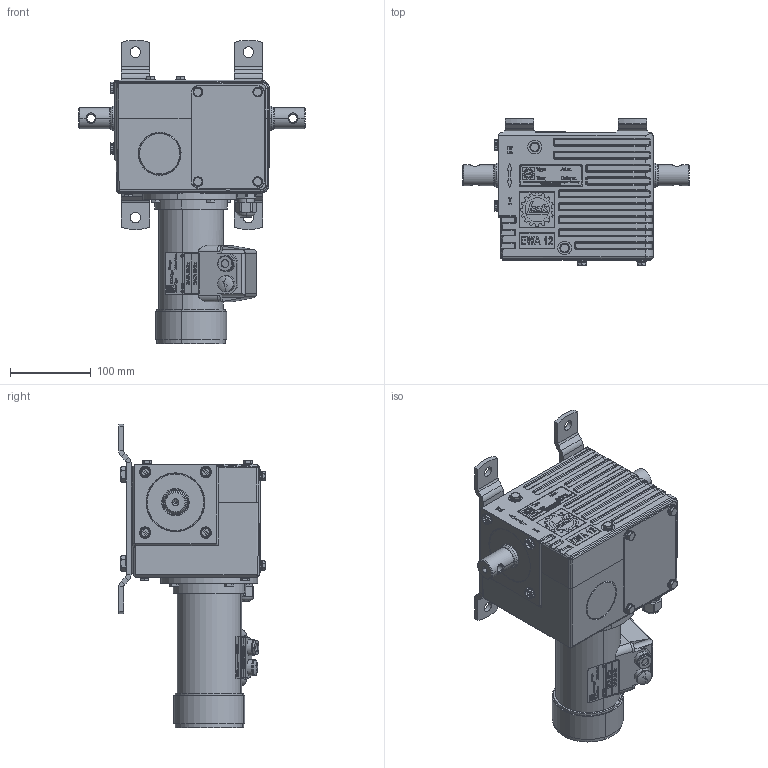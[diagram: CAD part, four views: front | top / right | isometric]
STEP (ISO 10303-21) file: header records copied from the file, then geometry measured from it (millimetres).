
FILE_DESCRIPTION (( 'STEP AP214' ), '1' );
FILE_NAME ('EWA_12_XX0X_12212_XX0X_0640_STEP_20150127.STEP', '2015-01-27T10:06:06', ( '' ), ( '' ), 'SwSTEP 2.0', 'SolidWorks 2013', '' );
FILE_SCHEMA (( 'AUTOMOTIVE_DESIGN' ));
Length unit declared in the file: millimetre
Products named in the file (1): EWA_12_XX0X_12212_XX0X_0640_STEP_20150127
Bounding box: 280 x 181.1 x 376.37 mm (x, y, z)
Volume: 2671691.3 mm3; surface area: 564879.8 mm2
Topology: 46 solids, 50 shells, 5284 faces, 13481 edges, 8560 vertices
Faces by surface type: plane 2449, bspline 1161, cylinder 1126, torus 350, cone 126, sphere 72
Entity records: 278540 total; most frequent: CARTESIAN_POINT 100206, ORIENTED_EDGE 26752, DIRECTION 21609, EDGE_CURVE 13376, VERTEX_POINT 8545, VECTOR 7581, LINE 7581, AXIS2_PLACEMENT_3D 7014
